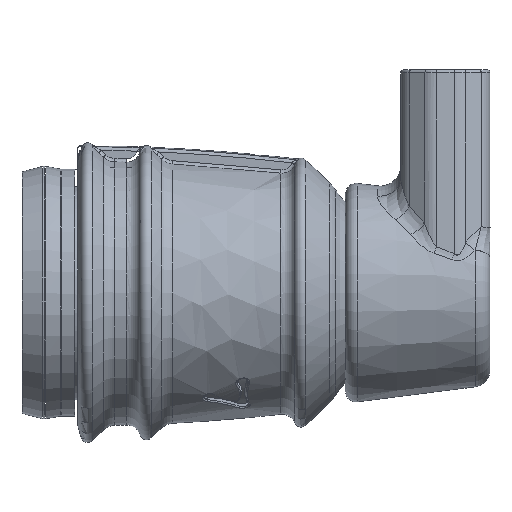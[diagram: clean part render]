
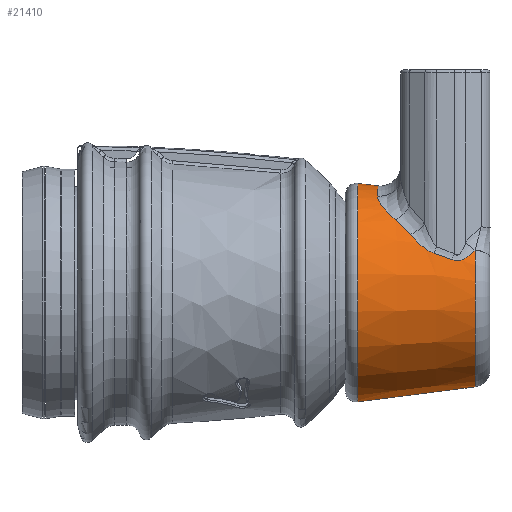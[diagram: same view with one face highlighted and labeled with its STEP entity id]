
A CAD part, left-side view. The second image highlights one B-rep face of the part: STEP entity #21410.
In plain terms, the highlighted conical face has half-angle 7.297 degrees and reference radius 14.823 mm.
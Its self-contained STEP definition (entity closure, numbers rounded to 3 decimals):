
#17117=DIRECTION('',(0.,0.992,0.127));
#17118=VECTOR('',#17117,2.908);
#17119=CARTESIAN_POINT('',(0.,-29.154,15.547));
#17120=LINE('',#17119,#17118);
#17121=CARTESIAN_POINT('',(0.,-29.154,0.));
#17122=DIRECTION('',(0.,-1.,0.));
#17123=DIRECTION('',(0.,0.,1.));
#17124=AXIS2_PLACEMENT_3D('',#17121,#17122,#17123);
#17126=CARTESIAN_POINT('',(-6.597,-29.154,
14.078));
#17127=CARTESIAN_POINT('',(-6.709,-29.154,
14.026));
#17128=CARTESIAN_POINT('',(-6.933,-29.162,
13.916));
#17129=CARTESIAN_POINT('',(-7.273,-29.201,
13.736));
#17130=CARTESIAN_POINT('',(-7.619,-29.266,
13.538));
#17131=CARTESIAN_POINT('',(-7.97,-29.361,
13.321));
#17132=CARTESIAN_POINT('',(-8.323,-29.486,
13.084));
#17133=CARTESIAN_POINT('',(-8.678,-29.644,
12.827));
#17134=CARTESIAN_POINT('',(-9.031,-29.837,
12.551));
#17135=CARTESIAN_POINT('',(-9.378,-30.064,
12.257));
#17136=CARTESIAN_POINT('',(-9.718,-30.326,
11.946));
#17137=CARTESIAN_POINT('',(-10.042,-30.62,
11.626));
#17138=CARTESIAN_POINT('',(-10.351,-30.949,
11.294));
#17139=CARTESIAN_POINT('',(-10.642,-31.312,
10.955));
#17140=CARTESIAN_POINT('',(-10.821,-31.575,
10.729));
#17141=CARTESIAN_POINT('',(-10.906,-31.713,
10.616));
#17143=CARTESIAN_POINT('',(-10.906,-31.713,
10.616));
#17144=CARTESIAN_POINT('',(-11.027,-31.907,
10.456));
#17145=CARTESIAN_POINT('',(-11.267,-32.291,
10.128));
#17146=CARTESIAN_POINT('',(-11.613,-32.843,
9.619));
#17147=CARTESIAN_POINT('',(-11.958,-33.39,
9.073));
#17148=CARTESIAN_POINT('',(-12.192,-33.759,
8.668));
#17149=CARTESIAN_POINT('',(-12.31,-33.943,
8.456));
#17151=CARTESIAN_POINT('',(-12.31,-33.943,
8.456));
#17152=CARTESIAN_POINT('',(-12.369,-34.037,
8.348));
#17153=CARTESIAN_POINT('',(-12.479,-34.219,
8.142));
#17154=CARTESIAN_POINT('',(-12.615,-34.472,
7.868));
#17155=CARTESIAN_POINT('',(-12.73,-34.711,
7.62));
#17156=CARTESIAN_POINT('',(-12.829,-34.936,
7.396));
#17157=CARTESIAN_POINT('',(-12.912,-35.15,
7.192));
#17158=CARTESIAN_POINT('',(-12.983,-35.349,
7.01));
#17159=CARTESIAN_POINT('',(-13.047,-35.548,
6.836));
#17160=CARTESIAN_POINT('',(-13.109,-35.768,
6.654));
#17161=CARTESIAN_POINT('',(-13.166,-36.005,
6.471));
#17162=CARTESIAN_POINT('',(-13.215,-36.245,
6.299));
#17163=CARTESIAN_POINT('',(-13.255,-36.486,
6.143));
#17164=CARTESIAN_POINT('',(-13.284,-36.719,
6.007));
#17165=CARTESIAN_POINT('',(-13.304,-36.95,
5.889));
#17166=CARTESIAN_POINT('',(-13.316,-37.178,
5.79));
#17167=CARTESIAN_POINT('',(-13.318,-37.317,
5.74));
#17168=CARTESIAN_POINT('',(-13.318,-37.385,
5.718));
#17170=CARTESIAN_POINT('',(-13.318,-37.385,
5.718));
#17171=CARTESIAN_POINT('',(-13.318,-37.669,
5.626));
#17172=CARTESIAN_POINT('',(-13.318,-38.237,
5.438));
#17173=CARTESIAN_POINT('',(-13.318,-39.084,
5.143));
#17174=CARTESIAN_POINT('',(-13.319,-39.645,
4.936));
#17175=CARTESIAN_POINT('',(-13.32,-39.924,
4.829));
#17177=CARTESIAN_POINT('',(-13.32,-39.924,
4.829));
#17178=CARTESIAN_POINT('',(-13.32,-39.977,
4.809));
#17179=CARTESIAN_POINT('',(-13.319,-40.08,
4.773));
#17180=CARTESIAN_POINT('',(-13.314,-40.221,
4.734));
#17181=CARTESIAN_POINT('',(-13.306,-40.353,
4.705));
#17182=CARTESIAN_POINT('',(-13.296,-40.479,
4.685));
#17183=CARTESIAN_POINT('',(-13.284,-40.599,
4.673));
#17184=CARTESIAN_POINT('',(-13.27,-40.718,
4.668));
#17185=CARTESIAN_POINT('',(-13.253,-40.838,
4.67));
#17186=CARTESIAN_POINT('',(-13.233,-40.961,
4.679));
#17187=CARTESIAN_POINT('',(-13.209,-41.091,
4.697));
#17188=CARTESIAN_POINT('',(-13.179,-41.233,
4.725));
#17189=CARTESIAN_POINT('',(-13.142,-41.391,
4.768));
#17190=CARTESIAN_POINT('',(-13.097,-41.563,
4.828));
#17191=CARTESIAN_POINT('',(-13.041,-41.75,
4.909));
#17192=CARTESIAN_POINT('',(-12.974,-41.953,
5.013));
#17193=CARTESIAN_POINT('',(-12.897,-42.16,
5.138));
#17194=CARTESIAN_POINT('',(-12.814,-42.36,
5.274));
#17195=CARTESIAN_POINT('',(-12.726,-42.555,
5.419));
#17196=CARTESIAN_POINT('',(-12.632,-42.745,
5.574));
#17197=CARTESIAN_POINT('',(-12.53,-42.936,
5.741));
#17198=CARTESIAN_POINT('',(-12.415,-43.136,
5.929));
#17199=CARTESIAN_POINT('',(-12.325,-43.279,
6.071));
#17200=CARTESIAN_POINT('',(-12.276,-43.353,
6.147));
#17202=CARTESIAN_POINT('',(0.,-43.353,0.));
#17203=DIRECTION('',(0.,1.,0.));
#17204=DIRECTION('',(0.,0.,-1.));
#17205=AXIS2_PLACEMENT_3D('',#17202,#17203,#17204);
#17207=DIRECTION('',(0.,0.992,-0.127));
#17208=VECTOR('',#17207,17.222);
#17209=CARTESIAN_POINT('',(0.,-43.353,-13.729));
#17210=LINE('',#17209,#17208);
#18409=CARTESIAN_POINT('',(0.,-26.27,0.));
#18410=DIRECTION('',(0.,-1.,0.));
#18411=DIRECTION('',(0.,0.,1.));
#18412=AXIS2_PLACEMENT_3D('',#18409,#18410,#18411);
#20700=CARTESIAN_POINT('',(0.,-43.353,-13.729));
#20701=CARTESIAN_POINT('',(0.,-26.27,-15.917));
#20702=VERTEX_POINT('',#20700);
#20703=VERTEX_POINT('',#20701);
#20704=CARTESIAN_POINT('',(0.,-29.154,15.547));
#20705=CARTESIAN_POINT('',(0.,-26.27,15.917));
#20706=VERTEX_POINT('',#20704);
#20707=VERTEX_POINT('',#20705);
#20708=CARTESIAN_POINT('',(-12.276,-43.353,
6.147));
#20709=VERTEX_POINT('',#20708);
#21120=VERTEX_POINT('',#17177);
#21121=VERTEX_POINT('',#17170);
#21124=VERTEX_POINT('',#17151);
#21125=VERTEX_POINT('',#17143);
#21126=VERTEX_POINT('',#17126);
#21385=CARTESIAN_POINT('',(0.,-34.811,0.));
#21386=DIRECTION('',(0.,1.,0.));
#21387=DIRECTION('',(0.,0.,1.));
#21388=AXIS2_PLACEMENT_3D('',#21385,#21386,#21387);
#21389=CONICAL_SURFACE('',#21388,14.823,7.297);
#21390=ORIENTED_EDGE('',*,*,#21355,.F.);
#21392=ORIENTED_EDGE('',*,*,#21391,.T.);
#21394=ORIENTED_EDGE('',*,*,#21393,.T.);
#21396=ORIENTED_EDGE('',*,*,#21395,.T.);
#21398=ORIENTED_EDGE('',*,*,#21397,.T.);
#21400=ORIENTED_EDGE('',*,*,#21399,.T.);
#21402=ORIENTED_EDGE('',*,*,#21401,.T.);
#21404=ORIENTED_EDGE('',*,*,#21403,.F.);
#21405=ORIENTED_EDGE('',*,*,#21359,.T.);
#21407=ORIENTED_EDGE('',*,*,#21406,.F.);
#21408=EDGE_LOOP('',(#21390,#21392,#21394,#21396,#21398,#21400,#21402,#21404,
#21405,#21407));
#21409=FACE_OUTER_BOUND('',#21408,.F.);
#17125=CIRCLE('',#17124,15.547);
#17142=B_SPLINE_CURVE_WITH_KNOTS('',3,(#17126,#17127,#17128,#17129,#17130,
#17131,#17132,#17133,#17134,#17135,#17136,#17137,#17138,#17139,#17140,#17141),
.UNSPECIFIED.,.F.,.F.,(4,1,1,1,1,1,1,1,1,1,1,1,1,4),(0.,0.077,
0.154,0.231,0.308,0.385,
0.462,0.538,0.615,0.692,
0.769,0.846,0.923,1.),.UNSPECIFIED.);
#17150=B_SPLINE_CURVE_WITH_KNOTS('',3,(#17143,#17144,#17145,#17146,#17147,
#17148,#17149),.UNSPECIFIED.,.F.,.F.,(4,1,1,1,4),(0.,0.25,0.5,0.75,
1.),.UNSPECIFIED.);
#17169=B_SPLINE_CURVE_WITH_KNOTS('',3,(#17151,#17152,#17153,#17154,#17155,
#17156,#17157,#17158,#17159,#17160,#17161,#17162,#17163,#17164,#17165,#17166,
#17167,#17168),.UNSPECIFIED.,.F.,.F.,(4,1,1,1,1,1,1,1,1,1,1,1,1,1,1,4),(0.,
0.067,0.133,0.2,0.267,0.333,
0.4,0.467,0.533,0.6,0.667,
0.733,0.8,0.867,0.933,1.),
.UNSPECIFIED.);
#17176=B_SPLINE_CURVE_WITH_KNOTS('',3,(#17170,#17171,#17172,#17173,#17174,
#17175),.UNSPECIFIED.,.F.,.F.,(4,1,1,4),(0.,0.333,
0.667,1.),.UNSPECIFIED.);
#17201=B_SPLINE_CURVE_WITH_KNOTS('',3,(#17177,#17178,#17179,#17180,#17181,
#17182,#17183,#17184,#17185,#17186,#17187,#17188,#17189,#17190,#17191,#17192,
#17193,#17194,#17195,#17196,#17197,#17198,#17199,#17200),.UNSPECIFIED.,.F.,.F.,(
4,1,1,1,1,1,1,1,1,1,1,1,1,1,1,1,1,1,1,1,1,4),(0.,0.048,
0.095,0.143,0.19,0.238,
0.286,0.333,0.381,0.429,
0.476,0.524,0.571,0.619,
0.667,0.714,0.762,0.81,
0.857,0.905,0.952,1.),.UNSPECIFIED.);
#17206=CIRCLE('',#17205,13.729);
#18413=CIRCLE('',#18412,15.917);
#21355=EDGE_CURVE('',#20706,#20707,#17120,.T.);
#21359=EDGE_CURVE('',#20702,#20703,#17210,.T.);
#21391=EDGE_CURVE('',#20706,#21126,#17125,.T.);
#21393=EDGE_CURVE('',#21126,#21125,#17142,.T.);
#21395=EDGE_CURVE('',#21125,#21124,#17150,.T.);
#21397=EDGE_CURVE('',#21124,#21121,#17169,.T.);
#21399=EDGE_CURVE('',#21121,#21120,#17176,.T.);
#21401=EDGE_CURVE('',#21120,#20709,#17201,.T.);
#21403=EDGE_CURVE('',#20702,#20709,#17206,.T.);
#21406=EDGE_CURVE('',#20707,#20703,#18413,.T.);
#21410=ADVANCED_FACE('',(#21409),#21389,.T.);
